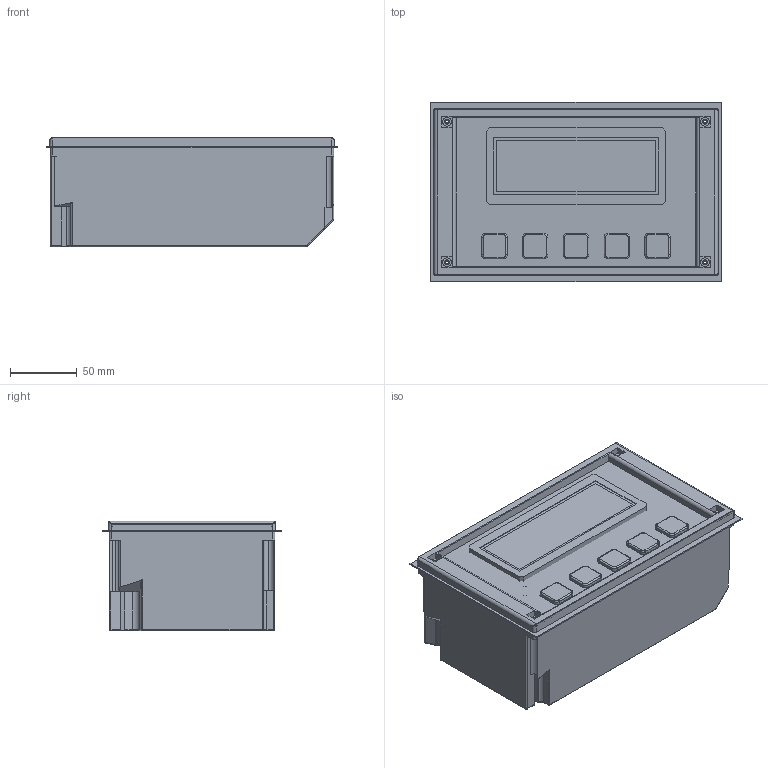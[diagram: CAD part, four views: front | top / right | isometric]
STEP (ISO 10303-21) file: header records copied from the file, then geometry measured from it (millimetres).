
FILE_DESCRIPTION (( 'STEP AP214' ), '1' );
FILE_NAME ('MK800-11.STEP', '2013-05-28T12:59:41', ( 'User' ), ( 'Bender' ), 'SwSTEP 2.0', 'SolidWorks 2013', '' );
FILE_SCHEMA (( 'AUTOMOTIVE_DESIGN' ));
Length unit declared in the file: millimetre
Products named in the file (10): MK800-11; S_TEST_Knopfgr”áe 19x19 qu; V_Warn; P1.1; l114405; UP-KAST 2 (ABB i-bus); l114405_B95100115; A300250; H1; S_ESC_Tastaturfl„che 19 mm
Assembly tree (15 placements, depth 3):
  MK800-11
    A300250
    l114405_B95100115
      l114405
      S_TEST_Knopfgr”áe 19x19 qu  x4
      S_ESC_Tastaturfl„che 19 mm
      V_Warn  x3
      P1.1
      H1  x2
    UP-KAST 2 (ABB i-bus)
Bounding box: 217 x 134 x 82 mm (x, y, z)
Volume: 327521.8 mm3; surface area: 321679.2 mm2
Topology: 13 solids, 14 shells, 1617 faces, 4515 edges, 2972 vertices
Faces by surface type: cylinder 909, plane 605, torus 42, cone 27, bspline 22, sphere 12
Entity records: 51584 total; most frequent: CARTESIAN_POINT 9728, DIRECTION 8022, ORIENTED_EDGE 7424, EDGE_CURVE 3799, AXIS2_PLACEMENT_3D 3038, VERTEX_POINT 2514, LINE 1946, VECTOR 1946
